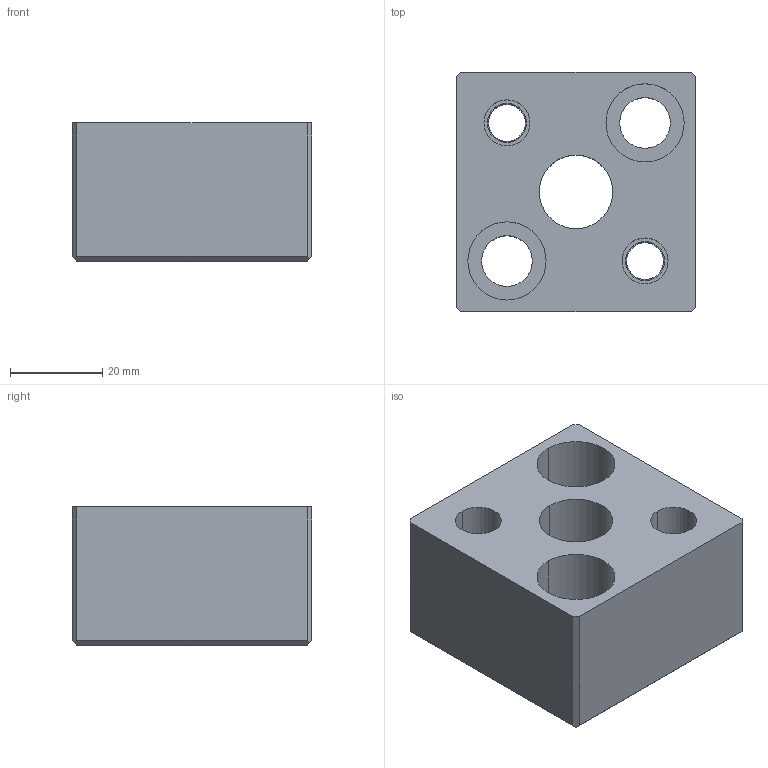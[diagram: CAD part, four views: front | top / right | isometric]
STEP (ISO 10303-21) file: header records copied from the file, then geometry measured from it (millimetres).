
FILE_DESCRIPTION(/* description */ (''),/* implementation_level */ '2;1');
FILE_NAME(/* name */ '3d_sr-fn16_05481_r00.stp',/* time_stamp */ '2011-01-10T14:09:58+09:00',/* author */ ('MISUMI'),/* organization */ (''),/* preprocessor_version */ 'ST-DEVELOPER v11',/* originating_system */ 'UGS - NX 5.0',/* authorisation */ '');
FILE_SCHEMA (('CONFIG_CONTROL_DESIGN'));
Length unit declared in the file: millimetre
Products named in the file (1): 3d_sr-fn16_05481_r00
Bounding box: 52 x 52 x 30 mm (x, y, z)
Volume: 61701.8 mm3; surface area: 16253.9 mm2
Topology: 1 solids, 1 shells, 47 faces, 116 edges, 77 vertices
Faces by surface type: cylinder 23, plane 22, cone 2
Entity records: 1520 total; most frequent: DIRECTION 260, CARTESIAN_POINT 246, ORIENTED_EDGE 232, EDGE_CURVE 116, AXIS2_PLACEMENT_3D 97, VERTEX_POINT 77, LINE 66, VECTOR 66
